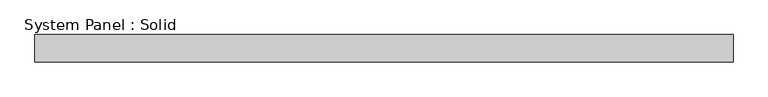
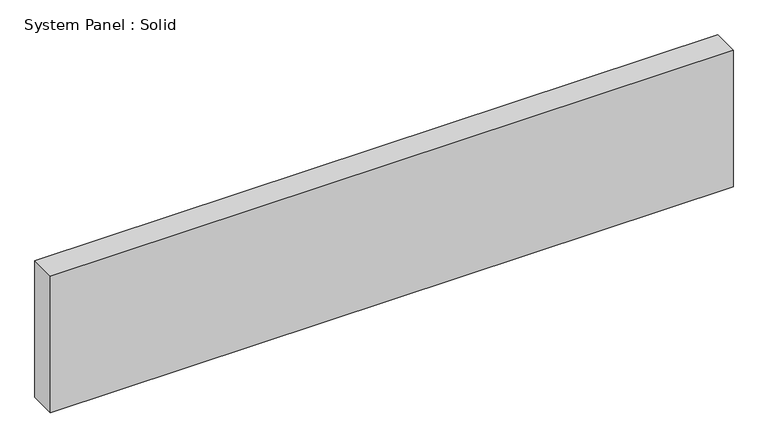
"""IFC4 building model written with IfcOpenShell, lengths in millimetres: plate geometry, System Panel : Solid."""

from ifc_helpers import new_model, si_unit, origin, origin_with_axes, place, context, project, spatial, polyline, outline, extrude, source, transform, mapped, element, save


def system_panel_solid_7cf5abf2(model_context):
    return source(origin(), model_context, "Body", "SweptSolid", [
        extrude(outline(polyline([(806.8423679, -19.05), (-806.8423679, -19.05), (-806.8423679, 44.45), (806.8423679, 44.45), (806.8423679, -19.05)])), origin_with_axes(), (0.0, 0.0, 1.0), 341.0388226),
    ])


if __name__ == "__main__":
    model = new_model("IFC4")
    model_context = context("Model", 3, world=origin())
    ifc_project = project(units=[si_unit("LENGTHUNIT", "METRE", prefix="MILLI")], contexts=[model_context])
    site = spatial("IfcSite", under=ifc_project)
    building = spatial("IfcBuilding", under=site)
    placement = place(None, origin())
    system_panel_solid_shape = system_panel_solid_7cf5abf2(model_context)
    element("IfcPlate", 1, ObjectType="System Panel : Solid", at=placement, inside=building, context=model_context, shape_type="MappedRepresentation", body=[
        mapped(system_panel_solid_shape, transform((0.0, 0.0, 0.0), x_axis=(1.0, 0.0, 0.0), y_axis=(0.0, 1.0, 0.0), z_axis=(0.0, 0.0, 1.0))),
    ])
    save(model, "model.ifc")
